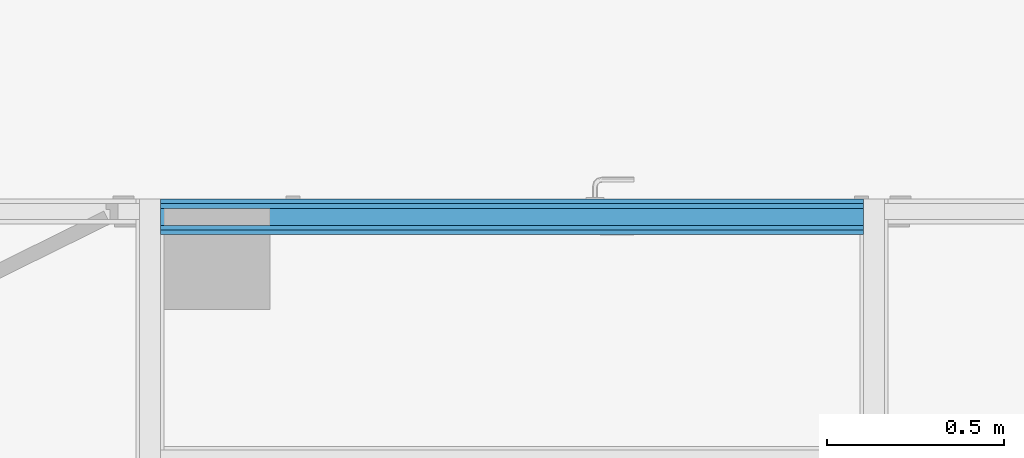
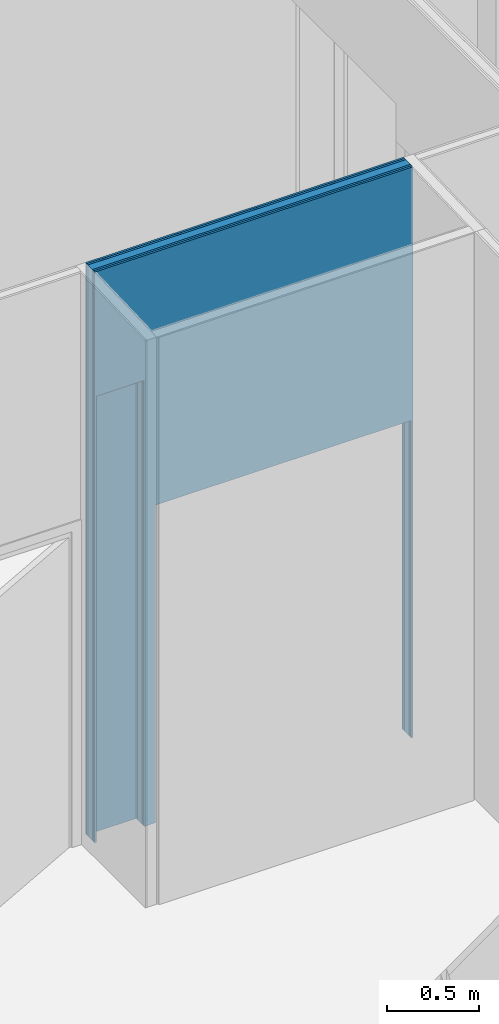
# One storey, part 31 of 34: 5 building element parts, 1 opening, 1 element without a shape of its own.
"""IFC2X3 building model written with IfcOpenShell, lengths in metres."""

import ifcopenshell
import ifcopenshell.guid

model = None  # the IFC model being written
_history = None  # IfcOwnerHistory: only IFC2X3 demands one
_inside = {}  # id of a spatial element -> (the spatial element, [elements in it])
_under = {}  # id of a project, library or spatial element -> (it, [spatial elements below it])
_declared = {}  # id of a project -> (the project, [libraries it declares])
_typed = {}  # id of a type object -> (the type object, [elements of that type])
_made_of = {}  # id of a material, layer set ... -> (it, [elements and type objects made of it])


def new_model(schema):
    """Start an empty IFC model of exactly this schema.

    Asked for "IFC4X3", IfcOpenShell would pick the latest addendum, in which some entities
    have other attributes; the version numbers below select the first issue.
    IFC2X3 requires an IfcOwnerHistory on every rooted entity: one is made here for all.
    """
    global model, _history
    if schema == "IFC4X3":
        model = ifcopenshell.file(schema_version=(4, 3, 0, 0))
    else:
        model = ifcopenshell.file(schema=schema)
    _inside.clear()
    _under.clear()
    _declared.clear()
    _typed.clear()
    _made_of.clear()
    _history = None
    if model.schema == "IFC2X3":
        org = make("IfcOrganization", Name="unknown")
        user = make(
            "IfcPersonAndOrganization",
            ThePerson=make("IfcPerson", FamilyName="unknown"),
            TheOrganization=org,
        )
        app = make(
            "IfcApplication",
            ApplicationDeveloper=org,
            Version="unknown",
            ApplicationFullName="unknown",
            ApplicationIdentifier="unknown",
        )
        _history = make(
            "IfcOwnerHistory",
            OwningUser=user,
            OwningApplication=app,
            ChangeAction="ADDED",
            CreationDate=0,
        )
    return model


def make(cls, **values):
    """One entity of the class cls with the attributes given. An attribute that is None is left unset."""
    return model.create_entity(
        cls, **{name: value for name, value in values.items() if value is not None}
    )


def entity(cls, *values):
    """Any entity or typed value of the class cls, its attributes in the order of the schema. None: left unset."""
    e = model.create_entity(cls)
    for i, value in enumerate(values):
        if value is not None:
            e[i] = value
    return e


def rooted(cls, **values):
    """An entity with a GlobalId (a new one), such as an element, a storey or a relation."""
    return make(cls, GlobalId=ifcopenshell.guid.new(), OwnerHistory=_history, **values)


def si_unit(unit_type, name, prefix=None):
    """IfcSIUnit, for example si_unit("LENGTHUNIT", "METRE", prefix="MILLI")."""
    return make("IfcSIUnit", UnitType=unit_type, Prefix=prefix, Name=name)


def converted_unit(unit_type, name, factor, base, dimensions=None, offset=None):
    """IfcConversionBasedUnit, such as the inch: factor (a typed value) times the base unit."""
    return make(
        "IfcConversionBasedUnit"
        if offset is None
        else "IfcConversionBasedUnitWithOffset",
        ConversionOffset=offset,
        Dimensions=None
        if dimensions is None
        else entity("IfcDimensionalExponents", *dimensions),
        UnitType=unit_type,
        Name=name,
        ConversionFactor=make(
            "IfcMeasureWithUnit", ValueComponent=factor, UnitComponent=base
        ),
    )


def derived_unit(unit_type, elements):
    """IfcDerivedUnit: a product of units, each with its exponent."""
    return make(
        "IfcDerivedUnit",
        Elements=[
            make("IfcDerivedUnitElement", Unit=unit, Exponent=power)
            for unit, power in elements
        ],
        UnitType=unit_type,
    )


def money_unit(currency):
    """IfcMonetaryUnit."""
    return make("IfcMonetaryUnit", Currency=currency)


def assignment(units):
    """IfcUnitAssignment: the units of a project."""
    return None if units is None else make("IfcUnitAssignment", Units=units)


def point(xyz):
    """IfcCartesianPoint."""
    return None if xyz is None else make("IfcCartesianPoint", Coordinates=xyz)


def direction(xyz):
    """IfcDirection."""
    return None if xyz is None else make("IfcDirection", DirectionRatios=xyz)


def frame(location, z_axis=None, x_axis=None):
    """IfcAxis2Placement3D, a coordinate frame: its origin and axes. An axis left out is left unset."""
    return make(
        "IfcAxis2Placement3D",
        Location=point(location),
        Axis=direction(z_axis),
        RefDirection=direction(x_axis),
    )


def frame_2d(location, x_axis=None):
    """IfcAxis2Placement2D, a coordinate frame in the plane: its origin and x axis."""
    return make(
        "IfcAxis2Placement2D", Location=point(location), RefDirection=direction(x_axis)
    )


def origin_with_axes():
    """The frame at (0, 0, 0) with the z axis (0, 0, 1) and the x axis (1, 0, 0) written out."""
    return frame((0.0, 0.0, 0.0), z_axis=(0.0, 0.0, 1.0), x_axis=(1.0, 0.0, 0.0))


def origin_2d_with_axis():
    """The frame at (0, 0) in the plane with the x axis (1, 0) written out."""
    return frame_2d((0.0, 0.0), x_axis=(1.0, 0.0))


def place(relative_to, where):
    """IfcLocalPlacement: puts the frame where relative to a parent placement (None: the world)."""
    return make(
        "IfcLocalPlacement", PlacementRelTo=relative_to, RelativePlacement=where
    )


def context(
    kind, dimensions, precision=None, world=None, true_north=None, identifier=None
):
    """IfcGeometricRepresentationContext, for example the 3D "Model" context."""
    return make(
        "IfcGeometricRepresentationContext",
        ContextIdentifier=identifier,
        ContextType=kind,
        CoordinateSpaceDimension=dimensions,
        Precision=precision,
        WorldCoordinateSystem=world,
        TrueNorth=true_north,
    )


def subcontext(parent, identifier, kind, view, scale=None):
    """IfcGeometricRepresentationSubContext, for example "Body" below "Model"."""
    return make(
        "IfcGeometricRepresentationSubContext",
        ContextIdentifier=identifier,
        ContextType=kind,
        ParentContext=parent,
        TargetScale=scale,
        TargetView=view,
    )


def project(units=None, contexts=None):
    """IfcProject with its units and contexts."""
    return rooted(
        "IfcProject",
        Name="project",
        RepresentationContexts=contexts,
        UnitsInContext=assignment(units),
    )


def spatial(cls, under=None, at=None, **own):
    """A site, building, storey or space (cls), placed at a placement, below another one or the project."""
    s = rooted(cls, ObjectPlacement=at, **own)
    if under is not None:
        _under.setdefault(under.id(), (under, []))[1].append(s)
    return s


def polyline(points):
    """IfcPolyline through the points."""
    return make("IfcPolyline", Points=[point(p) for p in points])


def profile(cls, at=None, kind="AREA", **sizes):
    """A parametric profile (cls). Its sizes go by their IFC names, for example OverallWidth=200.0."""
    return make(cls, ProfileType=kind, Position=at, **sizes)


def rectangle(**sizes):
    """IfcRectangleProfileDef."""
    return profile("IfcRectangleProfileDef", **sizes)


def outline(outer, holes=None, kind="AREA"):
    """IfcArbitraryClosedProfileDef: a profile drawn as a closed curve; with holes, ...WithVoids."""
    if holes is None:
        return make("IfcArbitraryClosedProfileDef", ProfileType=kind, OuterCurve=outer)
    return make(
        "IfcArbitraryProfileDefWithVoids",
        ProfileType=kind,
        OuterCurve=outer,
        InnerCurves=holes,
    )


def extrude(swept, where, along, depth):
    """IfcExtrudedAreaSolid: the profile swept, set in the frame where, extruded along a direction by depth."""
    return make(
        "IfcExtrudedAreaSolid",
        SweptArea=swept,
        Position=where,
        ExtrudedDirection=direction(along),
        Depth=depth,
    )


def boolean(op, a, b):
    """IfcBooleanResult of two solids."""
    return make("IfcBooleanResult", Operator=op, FirstOperand=a, SecondOperand=b)


def faces_of(points, faces, orient=None, outer=None):
    """IfcFace entities. A face is a list of loops; a loop is a list of indices into points, from 0.

    orient and outer hold one flag for each loop. By default every Orientation is true, the
    first loop of a face is its IfcFaceOuterBound and the others are IfcFaceBound.
    """
    made = []
    for i, loops in enumerate(faces):
        bounds = []
        for j, loop in enumerate(loops):
            is_outer = j == 0 if outer is None else outer[i][j]
            bounds.append(
                make(
                    "IfcFaceOuterBound" if is_outer else "IfcFaceBound",
                    Bound=make("IfcPolyLoop", Polygon=[points[k] for k in loop]),
                    Orientation=True if orient is None else orient[i][j],
                )
            )
        made.append(make("IfcFace", Bounds=bounds))
    return made


def faceted_brep(points, faces, orient=None, outer=None, voids=None):
    """IfcFacetedBrep: a solid bounded by flat faces; with voids (closed shells), ...WithVoids."""
    shared = [point(p) for p in points]
    hull = make("IfcClosedShell", CfsFaces=faces_of(shared, faces, orient, outer))
    if voids is None:
        return make("IfcFacetedBrep", Outer=hull)
    return make(
        "IfcFacetedBrepWithVoids",
        Outer=hull,
        Voids=[
            make(cls, CfsFaces=faces_of(shared, fs, o, b)) for cls, fs, o, b in voids
        ],
    )


def shape(context_of_items, identifier, shape_type, items):
    """IfcShapeRepresentation: the items that make up one representation, for example the "Body"."""
    return make(
        "IfcShapeRepresentation",
        ContextOfItems=context_of_items,
        RepresentationIdentifier=identifier,
        RepresentationType=shape_type,
        Items=items,
    )


def material(Name=None, Category=None):
    """IfcMaterial."""
    return make("IfcMaterial", Name=Name, Category=Category)


def made_of(thing, what):
    """Note that an element or type object is made of a material, layer set ...; save() writes the relation."""
    if what is not None:
        _made_of.setdefault(what.id(), (what, []))[1].append(thing)
    return thing


def type_object(cls, material=None, **own):
    """A type object (cls), such as IfcWallType, which elements share."""
    return made_of(rooted(cls, **own), material)


def element(
    cls,
    number,
    at=None,
    inside=None,
    cuts=None,
    type_object=None,
    material=None,
    context=None,
    identifier="Body",
    shape_type=None,
    held_by="IfcProductDefinitionShape",
    body=None,
    shapes=None,
    **own,
):
    """One element of the class cls, such as IfcWall. Its Tag is "e" and its number.

    at: its placement. inside: the storey or other place that contains it. cuts: it is an
    opening in that element (IfcRelVoidsElement). A single representation is given by context,
    identifier, shape_type and body (its items); several are given by shapes. held_by: the class
    of the entity that holds the representations. save() writes the other relations.
    """
    e = rooted(cls, Tag="e%d" % number, ObjectPlacement=at, **own)
    if body is not None:
        shapes = [shape(context, identifier, shape_type, body)]
    if shapes is not None:
        e.Representation = make(held_by, Representations=shapes)
    if inside is not None:
        _inside.setdefault(inside.id(), (inside, []))[1].append(e)
    if cuts is not None:
        rooted(
            "IfcRelVoidsElement", RelatingBuildingElement=cuts, RelatedOpeningElement=e
        )
    if type_object is not None:
        _typed.setdefault(type_object.id(), (type_object, []))[1].append(e)
    return made_of(e, material)


def aggregate(whole, parts):
    """IfcRelAggregates: a whole, such as a stair, and the parts it consists of."""
    return rooted("IfcRelAggregates", RelatingObject=whole, RelatedObjects=parts)


def save(model, path):
    """Write the relations noted so far, then the file.

    IfcRelAggregates (storeys below a building ...), IfcRelContainedInSpatialStructure (elements
    in a storey), IfcRelDefinesByType, IfcRelAssociatesMaterial and IfcRelDeclares: one each for
    every whole, place, type object, material and project.
    """
    for whole, parts in _under.values():
        aggregate(whole, parts)
    for where, things in _inside.values():
        rooted(
            "IfcRelContainedInSpatialStructure",
            RelatedElements=things,
            RelatingStructure=where,
        )
    for kind, things in _typed.values():
        rooted("IfcRelDefinesByType", RelatedObjects=things, RelatingType=kind)
    for what, things in _made_of.values():
        rooted("IfcRelAssociatesMaterial", RelatedObjects=things, RelatingMaterial=what)
    for by, libraries in _declared.values():
        rooted("IfcRelDeclares", RelatingContext=by, RelatedDefinitions=libraries)
    model.write(path)


model = new_model("IFC2X3")

# Units and contexts
model_context = context("Model", 3, precision=1e-05, world=origin_with_axes(), true_north=direction((0.0, 1.0)))
body_context = subcontext(model_context, "Body", "Model", "MODEL_VIEW")
ifc_project = project(units=[si_unit("LENGTHUNIT", "METRE"), si_unit("AREAUNIT", "SQUARE_METRE"), si_unit("VOLUMEUNIT", "CUBIC_METRE"), converted_unit("PLANEANGLEUNIT", "DEGREE", entity("IfcPlaneAngleMeasure", 0.0174532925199), si_unit("PLANEANGLEUNIT", "RADIAN"), dimensions=[0, 0, 0, 0, 0, 0, 0]), money_unit("CHF"), converted_unit("TIMEUNIT", "Year", entity("IfcTimeMeasure", 31556926.0), si_unit("TIMEUNIT", "SECOND"), dimensions=[0, 0, 1, 0, 0, 0, 0]), si_unit("MASSUNIT", "GRAM", prefix="KILO"), si_unit("THERMODYNAMICTEMPERATUREUNIT", "DEGREE_CELSIUS"), si_unit("LUMINOUSINTENSITYUNIT", "LUMEN"), si_unit("ENERGYUNIT", "JOULE", prefix="MEGA"), derived_unit("THERMALCONDUCTANCEUNIT", [(si_unit("POWERUNIT", "WATT"), 1), (si_unit("LENGTHUNIT", "METRE"), -1), (si_unit("THERMODYNAMICTEMPERATUREUNIT", "KELVIN"), -1)]), derived_unit("SPECIFICHEATCAPACITYUNIT", [(si_unit("ENERGYUNIT", "JOULE"), 1), (si_unit("MASSUNIT", "GRAM", prefix="KILO"), -1), (si_unit("THERMODYNAMICTEMPERATUREUNIT", "KELVIN"), -1)]), derived_unit("MASSDENSITYUNIT", [(si_unit("MASSUNIT", "GRAM", prefix="KILO"), 1), (si_unit("VOLUMEUNIT", "CUBIC_METRE"), -1)])], contexts=[model_context])

# Site, building, storey
site_placement = place(None, origin_with_axes())
site = spatial("IfcSite", under=ifc_project, at=site_placement, Name="Site", CompositionType="ELEMENT")
building_placement = place(site_placement, origin_with_axes())
building = spatial("IfcBuilding", under=site, at=building_placement, Name="Bâtiment", CompositionType="ELEMENT")
storey_placement = place(building_placement, origin_with_axes())
storey = spatial("IfcBuildingStorey", under=building, at=storey_placement, Name="Rez-de-chaussée", CompositionType="ELEMENT", Elevation=0.0)

# Wall, opening, building element parts
wall_type = type_object("IfcWallType", Name="Cloison 100/48 100", PredefinedType="NOTDEFINED")
wall_placement = place(storey_placement, frame((28.4394697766, 10.9801256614, 0.0), z_axis=(0.0, 0.0, 1.0), x_axis=(1.0, 0.0, 0.0)))
wall = element("IfcWall", 1, at=wall_placement, inside=storey, type_object=wall_type, Name="MUR_EXT-006")
opening_placement = place(wall_placement, frame((1.25, 0.0, 0.0), z_axis=(0.0, 0.0, 1.0), x_axis=(1.0, 0.0, 0.0)))
element("IfcOpeningElement", 2, at=opening_placement, cuts=wall, Name="PORTE-002", context=body_context, shape_type="SweptSolid", body=[
    extrude(rectangle(XDim=1.6, YDim=2.1, at=origin_2d_with_axis()), frame((0.0, -0.1, 1.05), z_axis=(0.0, 1.0, 0.0), x_axis=(1.0, 0.0, 0.0)), (0.0, 0.0, 1.0), 0.3),
    extrude(rectangle(XDim=1.65, YDim=2.125, at=origin_2d_with_axis()), frame((0.0, 0.0, 1.0625), z_axis=(0.0, -1.0, 0.0), x_axis=(1.0, 0.0, 0.0)), (0.0, 0.0, -1.0), 0.1),
])
ifc_material_1 = material(Name="Finition int - Plaque de plâtre")
building_element_part_1_placement = place(wall_placement, origin_with_axes())
solid_1 = boolean("DIFFERENCE", boolean("DIFFERENCE", boolean("DIFFERENCE", boolean("DIFFERENCE", boolean("DIFFERENCE", boolean("DIFFERENCE", boolean("DIFFERENCE", boolean("DIFFERENCE", extrude(outline(polyline([(0.0, -0.013), (2.13, -0.013), (2.13, 0.0), (0.0, 0.0), (0.0, -0.013)])), origin_with_axes(), (0.0, 0.0, 1.0), 4.0), faceted_brep([(0.07, 2.155839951e-10, 3.77780439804), (0.07, 8.64918092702e-09, 0.0), (0.0, 0.0, 0.0), (0.0, 0.0, 4.0), (2.13, 0.0, 4.0), (2.13, 0.0, 0.0), (2.06, 0.0, 0.0), (2.06, 0.0, 3.77780439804), (0.07, -0.013, 3.77734939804), (0.07, -0.013, 0.0), (0.0, -0.013, 0.0), (0.0, -0.013, 4.0), (2.13, -0.013, 4.0), (2.13, -0.013, 0.0), (2.06, -0.013, 0.0), (2.06, -0.013, 3.77734939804)], [[[0, 1, 2, 3, 4, 5, 6, 7]], [[1, 0, 8, 9]], [[1, 9, 10, 2]], [[3, 2, 10, 11]], [[3, 11, 12, 4]], [[12, 13, 5, 4]], [[14, 6, 5, 13]], [[7, 6, 14, 15]], [[0, 7, 15, 8]], [[15, 14, 13, 12, 11, 10, 9, 8]]])), faceted_brep([(0.08, -0.0130000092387, 0.0), (0.08, -0.0130000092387, 2.95), (0.38, -0.0130000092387, 2.95), (0.38, -0.0130000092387, 0.0), (0.08, -0.026, 0.0), (0.08, -0.026, 2.95), (0.38, -0.026, 2.95), (0.38, -0.026, 0.0)], [[[0, 1, 2, 3]], [[1, 0, 4, 5]], [[2, 1, 5, 6]], [[3, 2, 6, 7]], [[4, 0, 3, 7]], [[5, 4, 7, 6]]])), faceted_brep([(0.07, -0.013, 3.77734939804), (0.07, -0.013, 0.0), (0.0, -0.013, 0.0), (0.0, -0.013, 4.0), (2.13, -0.013, 4.0), (2.13, -0.013, 0.0), (2.06, -0.013, 0.0), (2.06, -0.013, 3.77734939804), (0.07, -0.026, 3.77689439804), (0.07, -0.026, 0.0), (0.0, -0.026, 0.0), (0.0, -0.026, 4.0), (2.13, -0.026, 4.0), (2.13, -0.026, 0.0), (2.06, -0.026, 0.0), (2.06, -0.026, 3.77689439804)], [[[0, 1, 2, 3, 4, 5, 6, 7]], [[1, 0, 8, 9]], [[1, 9, 10, 2]], [[3, 2, 10, 11]], [[3, 11, 12, 4]], [[12, 13, 5, 4]], [[14, 6, 5, 13]], [[7, 6, 14, 15]], [[0, 7, 15, 8]], [[15, 14, 13, 12, 11, 10, 9, 8]]])), faceted_brep([(0.08, -0.026, 0.0), (0.08, -0.026, 2.95), (0.38, -0.026, 2.95), (0.38, -0.026, 0.0), (0.08, -0.074, 0.0), (0.08, -0.074, 2.95), (0.38, -0.074, 2.95), (0.38, -0.074, 0.0)], [[[0, 1, 2, 3]], [[0, 4, 5, 1]], [[2, 1, 5, 6]], [[7, 3, 2, 6]], [[4, 0, 3, 7]], [[5, 4, 7, 6]]])), faceted_brep([(0.07, -0.026, 3.77689439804), (0.07, -0.026, 0.0), (0.0, -0.026, 0.0), (0.0, -0.026, 4.0), (2.13, -0.026, 4.0), (2.13, -0.026, 0.0), (2.06, -0.026, 0.0), (2.06, -0.026, 3.77689439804), (0.07, -0.074, 0.0), (0.07, -0.074, 3.77521439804), (0.0, -0.074, 0.0), (0.0, -0.074, 4.0), (2.13, -0.074, 4.0), (2.13, -0.074, 0.0), (2.06, -0.074, 0.0), (2.06, -0.074, 3.77521439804)], [[[0, 1, 2, 3, 4, 5, 6, 7]], [[8, 1, 0, 9]], [[1, 8, 10, 2]], [[3, 2, 10, 11]], [[3, 11, 12, 4]], [[12, 13, 5, 4]], [[14, 6, 5, 13]], [[6, 14, 15, 7]], [[0, 7, 15, 9]], [[15, 14, 13, 12, 11, 10, 8, 9]]])), faceted_brep([(0.08, -0.074, 0.0), (0.08, -0.074, 2.95), (0.38, -0.074, 2.95), (0.38, -0.074, 0.0), (0.08, -0.087, 0.0), (0.08, -0.087, 2.95), (0.38, -0.087, 2.95), (0.38, -0.087, 0.0)], [[[0, 1, 2, 3]], [[0, 4, 5, 1]], [[5, 6, 2, 1]], [[7, 3, 2, 6]], [[4, 0, 3, 7]], [[5, 4, 7, 6]]])), faceted_brep([(0.07, -0.074, 3.77521439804), (0.07, -0.074, 0.0), (0.0, -0.074, 0.0), (0.0, -0.074, 4.0), (2.13, -0.074, 4.0), (2.13, -0.074, 0.0), (2.06, -0.074, 0.0), (2.06, -0.074, 3.77521439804), (0.07, -0.087, 0.0), (0.07, -0.087, 3.77475939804), (0.0, -0.087, 0.0), (0.0, -0.087, 4.0), (2.13, -0.087, 4.0), (2.13, -0.087, 0.0), (2.06, -0.087, 0.0), (2.06, -0.087, 3.77475939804)], [[[0, 1, 2, 3, 4, 5, 6, 7]], [[8, 1, 0, 9]], [[1, 8, 10, 2]], [[3, 2, 10, 11]], [[3, 11, 12, 4]], [[12, 13, 5, 4]], [[14, 6, 5, 13]], [[6, 14, 15, 7]], [[0, 7, 15, 9]], [[15, 14, 13, 12, 11, 10, 8, 9]]])), faceted_brep([(0.08, -0.087, 0.0), (0.08, -0.087, 2.95), (0.38, -0.087, 2.95), (0.38, -0.087, 0.0), (0.08, -0.1, 0.0), (0.08, -0.1, 2.95), (0.38, -0.1, 2.95), (0.38, -0.1, 0.0)], [[[0, 1, 2, 3]], [[1, 0, 4, 5]], [[2, 1, 5, 6]], [[3, 2, 6, 7]], [[4, 0, 3, 7]], [[5, 4, 7, 6]]]))
building_element_part_1 = element("IfcBuildingElementPart", 3, at=building_element_part_1_placement, material=ifc_material_1, Name="Finition int - Plaque de plâtre", context=body_context, shape_type="CSG", body=[
    boolean("DIFFERENCE", solid_1, faceted_brep([(0.07, -0.087, 3.77475939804), (0.07, -0.087, 0.0), (0.0, -0.087, 0.0), (0.0, -0.087, 4.0), (2.13, -0.087, 4.0), (2.13, -0.087, 0.0), (2.06, -0.087, 0.0), (2.06, -0.087, 3.77475939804), (0.07, -0.1, 3.77430439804), (0.07, -0.1, 0.0), (0.0, -0.1, 0.0), (0.0, -0.1, 4.0), (2.13, -0.1, 4.0), (2.13, -0.1, 0.0), (2.06, -0.1, 0.0), (2.06, -0.1, 3.77430439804)], [[[0, 1, 2, 3, 4, 5, 6, 7]], [[1, 0, 8, 9]], [[1, 9, 10, 2]], [[3, 2, 10, 11]], [[3, 11, 12, 4]], [[12, 13, 5, 4]], [[14, 6, 5, 13]], [[7, 6, 14, 15]], [[0, 7, 15, 8]], [[15, 14, 13, 12, 11, 10, 9, 8]]])),
])
building_element_part_2_placement = place(wall_placement, origin_with_axes())
solid_2 = boolean("DIFFERENCE", boolean("DIFFERENCE", boolean("DIFFERENCE", boolean("DIFFERENCE", boolean("DIFFERENCE", boolean("DIFFERENCE", boolean("DIFFERENCE", boolean("DIFFERENCE", extrude(outline(polyline([(0.0, -0.026), (2.13, -0.026), (2.13, -0.013), (0.0, -0.013), (0.0, -0.026)])), origin_with_axes(), (0.0, 0.0, 1.0), 4.0), faceted_brep([(0.07, 2.155839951e-10, 3.77780439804), (0.07, 8.64918092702e-09, 0.0), (0.0, 0.0, 0.0), (0.0, 0.0, 4.0), (2.13, 0.0, 4.0), (2.13, 0.0, 0.0), (2.06, 0.0, 0.0), (2.06, 0.0, 3.77780439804), (0.07, -0.013, 3.77734939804), (0.07, -0.013, 0.0), (0.0, -0.013, 0.0), (0.0, -0.013, 4.0), (2.13, -0.013, 4.0), (2.13, -0.013, 0.0), (2.06, -0.013, 0.0), (2.06, -0.013, 3.77734939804)], [[[0, 1, 2, 3, 4, 5, 6, 7]], [[1, 0, 8, 9]], [[1, 9, 10, 2]], [[3, 2, 10, 11]], [[3, 11, 12, 4]], [[12, 13, 5, 4]], [[14, 6, 5, 13]], [[7, 6, 14, 15]], [[0, 7, 15, 8]], [[15, 14, 13, 12, 11, 10, 9, 8]]])), faceted_brep([(0.08, -0.0130000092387, 0.0), (0.08, -0.0130000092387, 2.95), (0.38, -0.0130000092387, 2.95), (0.38, -0.0130000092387, 0.0), (0.08, -0.026, 0.0), (0.08, -0.026, 2.95), (0.38, -0.026, 2.95), (0.38, -0.026, 0.0)], [[[0, 1, 2, 3]], [[1, 0, 4, 5]], [[2, 1, 5, 6]], [[3, 2, 6, 7]], [[4, 0, 3, 7]], [[5, 4, 7, 6]]])), faceted_brep([(0.07, -0.013, 3.77734939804), (0.07, -0.013, 0.0), (0.0, -0.013, 0.0), (0.0, -0.013, 4.0), (2.13, -0.013, 4.0), (2.13, -0.013, 0.0), (2.06, -0.013, 0.0), (2.06, -0.013, 3.77734939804), (0.07, -0.026, 3.77689439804), (0.07, -0.026, 0.0), (0.0, -0.026, 0.0), (0.0, -0.026, 4.0), (2.13, -0.026, 4.0), (2.13, -0.026, 0.0), (2.06, -0.026, 0.0), (2.06, -0.026, 3.77689439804)], [[[0, 1, 2, 3, 4, 5, 6, 7]], [[1, 0, 8, 9]], [[1, 9, 10, 2]], [[3, 2, 10, 11]], [[3, 11, 12, 4]], [[12, 13, 5, 4]], [[14, 6, 5, 13]], [[7, 6, 14, 15]], [[0, 7, 15, 8]], [[15, 14, 13, 12, 11, 10, 9, 8]]])), faceted_brep([(0.08, -0.026, 0.0), (0.08, -0.026, 2.95), (0.38, -0.026, 2.95), (0.38, -0.026, 0.0), (0.08, -0.074, 0.0), (0.08, -0.074, 2.95), (0.38, -0.074, 2.95), (0.38, -0.074, 0.0)], [[[0, 1, 2, 3]], [[0, 4, 5, 1]], [[2, 1, 5, 6]], [[7, 3, 2, 6]], [[4, 0, 3, 7]], [[5, 4, 7, 6]]])), faceted_brep([(0.07, -0.026, 3.77689439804), (0.07, -0.026, 0.0), (0.0, -0.026, 0.0), (0.0, -0.026, 4.0), (2.13, -0.026, 4.0), (2.13, -0.026, 0.0), (2.06, -0.026, 0.0), (2.06, -0.026, 3.77689439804), (0.07, -0.074, 0.0), (0.07, -0.074, 3.77521439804), (0.0, -0.074, 0.0), (0.0, -0.074, 4.0), (2.13, -0.074, 4.0), (2.13, -0.074, 0.0), (2.06, -0.074, 0.0), (2.06, -0.074, 3.77521439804)], [[[0, 1, 2, 3, 4, 5, 6, 7]], [[8, 1, 0, 9]], [[1, 8, 10, 2]], [[3, 2, 10, 11]], [[3, 11, 12, 4]], [[12, 13, 5, 4]], [[14, 6, 5, 13]], [[6, 14, 15, 7]], [[0, 7, 15, 9]], [[15, 14, 13, 12, 11, 10, 8, 9]]])), faceted_brep([(0.08, -0.074, 0.0), (0.08, -0.074, 2.95), (0.38, -0.074, 2.95), (0.38, -0.074, 0.0), (0.08, -0.087, 0.0), (0.08, -0.087, 2.95), (0.38, -0.087, 2.95), (0.38, -0.087, 0.0)], [[[0, 1, 2, 3]], [[0, 4, 5, 1]], [[5, 6, 2, 1]], [[7, 3, 2, 6]], [[4, 0, 3, 7]], [[5, 4, 7, 6]]])), faceted_brep([(0.07, -0.074, 3.77521439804), (0.07, -0.074, 0.0), (0.0, -0.074, 0.0), (0.0, -0.074, 4.0), (2.13, -0.074, 4.0), (2.13, -0.074, 0.0), (2.06, -0.074, 0.0), (2.06, -0.074, 3.77521439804), (0.07, -0.087, 0.0), (0.07, -0.087, 3.77475939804), (0.0, -0.087, 0.0), (0.0, -0.087, 4.0), (2.13, -0.087, 4.0), (2.13, -0.087, 0.0), (2.06, -0.087, 0.0), (2.06, -0.087, 3.77475939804)], [[[0, 1, 2, 3, 4, 5, 6, 7]], [[8, 1, 0, 9]], [[1, 8, 10, 2]], [[3, 2, 10, 11]], [[3, 11, 12, 4]], [[12, 13, 5, 4]], [[14, 6, 5, 13]], [[6, 14, 15, 7]], [[0, 7, 15, 9]], [[15, 14, 13, 12, 11, 10, 8, 9]]])), faceted_brep([(0.08, -0.087, 0.0), (0.08, -0.087, 2.95), (0.38, -0.087, 2.95), (0.38, -0.087, 0.0), (0.08, -0.1, 0.0), (0.08, -0.1, 2.95), (0.38, -0.1, 2.95), (0.38, -0.1, 0.0)], [[[0, 1, 2, 3]], [[1, 0, 4, 5]], [[2, 1, 5, 6]], [[3, 2, 6, 7]], [[4, 0, 3, 7]], [[5, 4, 7, 6]]]))
building_element_part_2 = element("IfcBuildingElementPart", 4, at=building_element_part_2_placement, material=ifc_material_1, Name="Finition int - Plaque de plâtre", context=body_context, shape_type="CSG", body=[
    boolean("DIFFERENCE", solid_2, faceted_brep([(0.07, -0.087, 3.77475939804), (0.07, -0.087, 0.0), (0.0, -0.087, 0.0), (0.0, -0.087, 4.0), (2.13, -0.087, 4.0), (2.13, -0.087, 0.0), (2.06, -0.087, 0.0), (2.06, -0.087, 3.77475939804), (0.07, -0.1, 3.77430439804), (0.07, -0.1, 0.0), (0.0, -0.1, 0.0), (0.0, -0.1, 4.0), (2.13, -0.1, 4.0), (2.13, -0.1, 0.0), (2.06, -0.1, 0.0), (2.06, -0.1, 3.77430439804)], [[[0, 1, 2, 3, 4, 5, 6, 7]], [[1, 0, 8, 9]], [[1, 9, 10, 2]], [[3, 2, 10, 11]], [[3, 11, 12, 4]], [[12, 13, 5, 4]], [[14, 6, 5, 13]], [[7, 6, 14, 15]], [[0, 7, 15, 8]], [[15, 14, 13, 12, 11, 10, 9, 8]]])),
])
ifc_material_2 = material(Name="Isolation - Laine de verre")
building_element_part_3_placement = place(wall_placement, origin_with_axes())
solid_3 = boolean("DIFFERENCE", boolean("DIFFERENCE", boolean("DIFFERENCE", boolean("DIFFERENCE", boolean("DIFFERENCE", boolean("DIFFERENCE", boolean("DIFFERENCE", boolean("DIFFERENCE", extrude(outline(polyline([(0.0, -0.074), (2.13, -0.074), (2.13, -0.026), (0.0, -0.026), (0.0, -0.074)])), origin_with_axes(), (0.0, 0.0, 1.0), 4.0), faceted_brep([(0.07, 2.155839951e-10, 3.77780439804), (0.07, 8.64918092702e-09, 0.0), (0.0, 0.0, 0.0), (0.0, 0.0, 4.0), (2.13, 0.0, 4.0), (2.13, 0.0, 0.0), (2.06, 0.0, 0.0), (2.06, 0.0, 3.77780439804), (0.07, -0.013, 3.77734939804), (0.07, -0.013, 0.0), (0.0, -0.013, 0.0), (0.0, -0.013, 4.0), (2.13, -0.013, 4.0), (2.13, -0.013, 0.0), (2.06, -0.013, 0.0), (2.06, -0.013, 3.77734939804)], [[[0, 1, 2, 3, 4, 5, 6, 7]], [[1, 0, 8, 9]], [[1, 9, 10, 2]], [[3, 2, 10, 11]], [[3, 11, 12, 4]], [[12, 13, 5, 4]], [[14, 6, 5, 13]], [[7, 6, 14, 15]], [[0, 7, 15, 8]], [[15, 14, 13, 12, 11, 10, 9, 8]]])), faceted_brep([(0.08, -0.0130000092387, 0.0), (0.08, -0.0130000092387, 2.95), (0.38, -0.0130000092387, 2.95), (0.38, -0.0130000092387, 0.0), (0.08, -0.026, 0.0), (0.08, -0.026, 2.95), (0.38, -0.026, 2.95), (0.38, -0.026, 0.0)], [[[0, 1, 2, 3]], [[1, 0, 4, 5]], [[2, 1, 5, 6]], [[3, 2, 6, 7]], [[4, 0, 3, 7]], [[5, 4, 7, 6]]])), faceted_brep([(0.07, -0.013, 3.77734939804), (0.07, -0.013, 0.0), (0.0, -0.013, 0.0), (0.0, -0.013, 4.0), (2.13, -0.013, 4.0), (2.13, -0.013, 0.0), (2.06, -0.013, 0.0), (2.06, -0.013, 3.77734939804), (0.07, -0.026, 3.77689439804), (0.07, -0.026, 0.0), (0.0, -0.026, 0.0), (0.0, -0.026, 4.0), (2.13, -0.026, 4.0), (2.13, -0.026, 0.0), (2.06, -0.026, 0.0), (2.06, -0.026, 3.77689439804)], [[[0, 1, 2, 3, 4, 5, 6, 7]], [[1, 0, 8, 9]], [[1, 9, 10, 2]], [[3, 2, 10, 11]], [[3, 11, 12, 4]], [[12, 13, 5, 4]], [[14, 6, 5, 13]], [[7, 6, 14, 15]], [[0, 7, 15, 8]], [[15, 14, 13, 12, 11, 10, 9, 8]]])), faceted_brep([(0.08, -0.026, 0.0), (0.08, -0.026, 2.95), (0.38, -0.026, 2.95), (0.38, -0.026, 0.0), (0.08, -0.074, 0.0), (0.08, -0.074, 2.95), (0.38, -0.074, 2.95), (0.38, -0.074, 0.0)], [[[0, 1, 2, 3]], [[0, 4, 5, 1]], [[2, 1, 5, 6]], [[7, 3, 2, 6]], [[4, 0, 3, 7]], [[5, 4, 7, 6]]])), faceted_brep([(0.07, -0.026, 3.77689439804), (0.07, -0.026, 0.0), (0.0, -0.026, 0.0), (0.0, -0.026, 4.0), (2.13, -0.026, 4.0), (2.13, -0.026, 0.0), (2.06, -0.026, 0.0), (2.06, -0.026, 3.77689439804), (0.07, -0.074, 0.0), (0.07, -0.074, 3.77521439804), (0.0, -0.074, 0.0), (0.0, -0.074, 4.0), (2.13, -0.074, 4.0), (2.13, -0.074, 0.0), (2.06, -0.074, 0.0), (2.06, -0.074, 3.77521439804)], [[[0, 1, 2, 3, 4, 5, 6, 7]], [[8, 1, 0, 9]], [[1, 8, 10, 2]], [[3, 2, 10, 11]], [[3, 11, 12, 4]], [[12, 13, 5, 4]], [[14, 6, 5, 13]], [[6, 14, 15, 7]], [[0, 7, 15, 9]], [[15, 14, 13, 12, 11, 10, 8, 9]]])), faceted_brep([(0.08, -0.074, 0.0), (0.08, -0.074, 2.95), (0.38, -0.074, 2.95), (0.38, -0.074, 0.0), (0.08, -0.087, 0.0), (0.08, -0.087, 2.95), (0.38, -0.087, 2.95), (0.38, -0.087, 0.0)], [[[0, 1, 2, 3]], [[0, 4, 5, 1]], [[5, 6, 2, 1]], [[7, 3, 2, 6]], [[4, 0, 3, 7]], [[5, 4, 7, 6]]])), faceted_brep([(0.07, -0.074, 3.77521439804), (0.07, -0.074, 0.0), (0.0, -0.074, 0.0), (0.0, -0.074, 4.0), (2.13, -0.074, 4.0), (2.13, -0.074, 0.0), (2.06, -0.074, 0.0), (2.06, -0.074, 3.77521439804), (0.07, -0.087, 0.0), (0.07, -0.087, 3.77475939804), (0.0, -0.087, 0.0), (0.0, -0.087, 4.0), (2.13, -0.087, 4.0), (2.13, -0.087, 0.0), (2.06, -0.087, 0.0), (2.06, -0.087, 3.77475939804)], [[[0, 1, 2, 3, 4, 5, 6, 7]], [[8, 1, 0, 9]], [[1, 8, 10, 2]], [[3, 2, 10, 11]], [[3, 11, 12, 4]], [[12, 13, 5, 4]], [[14, 6, 5, 13]], [[6, 14, 15, 7]], [[0, 7, 15, 9]], [[15, 14, 13, 12, 11, 10, 8, 9]]])), faceted_brep([(0.08, -0.087, 0.0), (0.08, -0.087, 2.95), (0.38, -0.087, 2.95), (0.38, -0.087, 0.0), (0.08, -0.1, 0.0), (0.08, -0.1, 2.95), (0.38, -0.1, 2.95), (0.38, -0.1, 0.0)], [[[0, 1, 2, 3]], [[1, 0, 4, 5]], [[2, 1, 5, 6]], [[3, 2, 6, 7]], [[4, 0, 3, 7]], [[5, 4, 7, 6]]]))
building_element_part_3 = element("IfcBuildingElementPart", 5, at=building_element_part_3_placement, material=ifc_material_2, Name="Isolation - Laine de verre", context=body_context, shape_type="CSG", body=[
    boolean("DIFFERENCE", solid_3, faceted_brep([(0.07, -0.087, 3.77475939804), (0.07, -0.087, 0.0), (0.0, -0.087, 0.0), (0.0, -0.087, 4.0), (2.13, -0.087, 4.0), (2.13, -0.087, 0.0), (2.06, -0.087, 0.0), (2.06, -0.087, 3.77475939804), (0.07, -0.1, 3.77430439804), (0.07, -0.1, 0.0), (0.0, -0.1, 0.0), (0.0, -0.1, 4.0), (2.13, -0.1, 4.0), (2.13, -0.1, 0.0), (2.06, -0.1, 0.0), (2.06, -0.1, 3.77430439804)], [[[0, 1, 2, 3, 4, 5, 6, 7]], [[1, 0, 8, 9]], [[1, 9, 10, 2]], [[3, 2, 10, 11]], [[3, 11, 12, 4]], [[12, 13, 5, 4]], [[14, 6, 5, 13]], [[7, 6, 14, 15]], [[0, 7, 15, 8]], [[15, 14, 13, 12, 11, 10, 9, 8]]])),
])
building_element_part_4_placement = place(wall_placement, origin_with_axes())
solid_4 = boolean("DIFFERENCE", boolean("DIFFERENCE", boolean("DIFFERENCE", boolean("DIFFERENCE", boolean("DIFFERENCE", boolean("DIFFERENCE", boolean("DIFFERENCE", boolean("DIFFERENCE", extrude(outline(polyline([(0.0, -0.087), (2.13, -0.087), (2.13, -0.074), (0.0, -0.074), (0.0, -0.087)])), origin_with_axes(), (0.0, 0.0, 1.0), 4.0), faceted_brep([(0.07, 2.155839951e-10, 3.77780439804), (0.07, 8.64918092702e-09, 0.0), (0.0, 0.0, 0.0), (0.0, 0.0, 4.0), (2.13, 0.0, 4.0), (2.13, 0.0, 0.0), (2.06, 0.0, 0.0), (2.06, 0.0, 3.77780439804), (0.07, -0.013, 3.77734939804), (0.07, -0.013, 0.0), (0.0, -0.013, 0.0), (0.0, -0.013, 4.0), (2.13, -0.013, 4.0), (2.13, -0.013, 0.0), (2.06, -0.013, 0.0), (2.06, -0.013, 3.77734939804)], [[[0, 1, 2, 3, 4, 5, 6, 7]], [[1, 0, 8, 9]], [[1, 9, 10, 2]], [[3, 2, 10, 11]], [[3, 11, 12, 4]], [[12, 13, 5, 4]], [[14, 6, 5, 13]], [[7, 6, 14, 15]], [[0, 7, 15, 8]], [[15, 14, 13, 12, 11, 10, 9, 8]]])), faceted_brep([(0.08, -0.0130000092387, 0.0), (0.08, -0.0130000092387, 2.95), (0.38, -0.0130000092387, 2.95), (0.38, -0.0130000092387, 0.0), (0.08, -0.026, 0.0), (0.08, -0.026, 2.95), (0.38, -0.026, 2.95), (0.38, -0.026, 0.0)], [[[0, 1, 2, 3]], [[1, 0, 4, 5]], [[2, 1, 5, 6]], [[3, 2, 6, 7]], [[4, 0, 3, 7]], [[5, 4, 7, 6]]])), faceted_brep([(0.07, -0.013, 3.77734939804), (0.07, -0.013, 0.0), (0.0, -0.013, 0.0), (0.0, -0.013, 4.0), (2.13, -0.013, 4.0), (2.13, -0.013, 0.0), (2.06, -0.013, 0.0), (2.06, -0.013, 3.77734939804), (0.07, -0.026, 3.77689439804), (0.07, -0.026, 0.0), (0.0, -0.026, 0.0), (0.0, -0.026, 4.0), (2.13, -0.026, 4.0), (2.13, -0.026, 0.0), (2.06, -0.026, 0.0), (2.06, -0.026, 3.77689439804)], [[[0, 1, 2, 3, 4, 5, 6, 7]], [[1, 0, 8, 9]], [[1, 9, 10, 2]], [[3, 2, 10, 11]], [[3, 11, 12, 4]], [[12, 13, 5, 4]], [[14, 6, 5, 13]], [[7, 6, 14, 15]], [[0, 7, 15, 8]], [[15, 14, 13, 12, 11, 10, 9, 8]]])), faceted_brep([(0.08, -0.026, 0.0), (0.08, -0.026, 2.95), (0.38, -0.026, 2.95), (0.38, -0.026, 0.0), (0.08, -0.074, 0.0), (0.08, -0.074, 2.95), (0.38, -0.074, 2.95), (0.38, -0.074, 0.0)], [[[0, 1, 2, 3]], [[0, 4, 5, 1]], [[2, 1, 5, 6]], [[7, 3, 2, 6]], [[4, 0, 3, 7]], [[5, 4, 7, 6]]])), faceted_brep([(0.07, -0.026, 3.77689439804), (0.07, -0.026, 0.0), (0.0, -0.026, 0.0), (0.0, -0.026, 4.0), (2.13, -0.026, 4.0), (2.13, -0.026, 0.0), (2.06, -0.026, 0.0), (2.06, -0.026, 3.77689439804), (0.07, -0.074, 0.0), (0.07, -0.074, 3.77521439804), (0.0, -0.074, 0.0), (0.0, -0.074, 4.0), (2.13, -0.074, 4.0), (2.13, -0.074, 0.0), (2.06, -0.074, 0.0), (2.06, -0.074, 3.77521439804)], [[[0, 1, 2, 3, 4, 5, 6, 7]], [[8, 1, 0, 9]], [[1, 8, 10, 2]], [[3, 2, 10, 11]], [[3, 11, 12, 4]], [[12, 13, 5, 4]], [[14, 6, 5, 13]], [[6, 14, 15, 7]], [[0, 7, 15, 9]], [[15, 14, 13, 12, 11, 10, 8, 9]]])), faceted_brep([(0.08, -0.074, 0.0), (0.08, -0.074, 2.95), (0.38, -0.074, 2.95), (0.38, -0.074, 0.0), (0.08, -0.087, 0.0), (0.08, -0.087, 2.95), (0.38, -0.087, 2.95), (0.38, -0.087, 0.0)], [[[0, 1, 2, 3]], [[0, 4, 5, 1]], [[5, 6, 2, 1]], [[7, 3, 2, 6]], [[4, 0, 3, 7]], [[5, 4, 7, 6]]])), faceted_brep([(0.07, -0.074, 3.77521439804), (0.07, -0.074, 0.0), (0.0, -0.074, 0.0), (0.0, -0.074, 4.0), (2.13, -0.074, 4.0), (2.13, -0.074, 0.0), (2.06, -0.074, 0.0), (2.06, -0.074, 3.77521439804), (0.07, -0.087, 0.0), (0.07, -0.087, 3.77475939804), (0.0, -0.087, 0.0), (0.0, -0.087, 4.0), (2.13, -0.087, 4.0), (2.13, -0.087, 0.0), (2.06, -0.087, 0.0), (2.06, -0.087, 3.77475939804)], [[[0, 1, 2, 3, 4, 5, 6, 7]], [[8, 1, 0, 9]], [[1, 8, 10, 2]], [[3, 2, 10, 11]], [[3, 11, 12, 4]], [[12, 13, 5, 4]], [[14, 6, 5, 13]], [[6, 14, 15, 7]], [[0, 7, 15, 9]], [[15, 14, 13, 12, 11, 10, 8, 9]]])), faceted_brep([(0.08, -0.087, 0.0), (0.08, -0.087, 2.95), (0.38, -0.087, 2.95), (0.38, -0.087, 0.0), (0.08, -0.1, 0.0), (0.08, -0.1, 2.95), (0.38, -0.1, 2.95), (0.38, -0.1, 0.0)], [[[0, 1, 2, 3]], [[1, 0, 4, 5]], [[2, 1, 5, 6]], [[3, 2, 6, 7]], [[4, 0, 3, 7]], [[5, 4, 7, 6]]]))
building_element_part_4 = element("IfcBuildingElementPart", 6, at=building_element_part_4_placement, material=ifc_material_1, Name="Finition int - Plaque de plâtre", context=body_context, shape_type="CSG", body=[
    boolean("DIFFERENCE", solid_4, faceted_brep([(0.07, -0.087, 3.77475939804), (0.07, -0.087, 0.0), (0.0, -0.087, 0.0), (0.0, -0.087, 4.0), (2.13, -0.087, 4.0), (2.13, -0.087, 0.0), (2.06, -0.087, 0.0), (2.06, -0.087, 3.77475939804), (0.07, -0.1, 3.77430439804), (0.07, -0.1, 0.0), (0.0, -0.1, 0.0), (0.0, -0.1, 4.0), (2.13, -0.1, 4.0), (2.13, -0.1, 0.0), (2.06, -0.1, 0.0), (2.06, -0.1, 3.77430439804)], [[[0, 1, 2, 3, 4, 5, 6, 7]], [[1, 0, 8, 9]], [[1, 9, 10, 2]], [[3, 2, 10, 11]], [[3, 11, 12, 4]], [[12, 13, 5, 4]], [[14, 6, 5, 13]], [[7, 6, 14, 15]], [[0, 7, 15, 8]], [[15, 14, 13, 12, 11, 10, 9, 8]]])),
])
building_element_part_5_placement = place(wall_placement, origin_with_axes())
solid_5 = boolean("DIFFERENCE", boolean("DIFFERENCE", boolean("DIFFERENCE", boolean("DIFFERENCE", boolean("DIFFERENCE", boolean("DIFFERENCE", boolean("DIFFERENCE", boolean("DIFFERENCE", extrude(outline(polyline([(0.0, -0.1), (2.13, -0.1), (2.13, -0.087), (0.0, -0.087), (0.0, -0.1)])), origin_with_axes(), (0.0, 0.0, 1.0), 4.0), faceted_brep([(0.07, 2.155839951e-10, 3.77780439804), (0.07, 8.64918092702e-09, 0.0), (0.0, 0.0, 0.0), (0.0, 0.0, 4.0), (2.13, 0.0, 4.0), (2.13, 0.0, 0.0), (2.06, 0.0, 0.0), (2.06, 0.0, 3.77780439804), (0.07, -0.013, 3.77734939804), (0.07, -0.013, 0.0), (0.0, -0.013, 0.0), (0.0, -0.013, 4.0), (2.13, -0.013, 4.0), (2.13, -0.013, 0.0), (2.06, -0.013, 0.0), (2.06, -0.013, 3.77734939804)], [[[0, 1, 2, 3, 4, 5, 6, 7]], [[1, 0, 8, 9]], [[1, 9, 10, 2]], [[3, 2, 10, 11]], [[3, 11, 12, 4]], [[12, 13, 5, 4]], [[14, 6, 5, 13]], [[7, 6, 14, 15]], [[0, 7, 15, 8]], [[15, 14, 13, 12, 11, 10, 9, 8]]])), faceted_brep([(0.08, -0.0130000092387, 0.0), (0.08, -0.0130000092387, 2.95), (0.38, -0.0130000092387, 2.95), (0.38, -0.0130000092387, 0.0), (0.08, -0.026, 0.0), (0.08, -0.026, 2.95), (0.38, -0.026, 2.95), (0.38, -0.026, 0.0)], [[[0, 1, 2, 3]], [[1, 0, 4, 5]], [[2, 1, 5, 6]], [[3, 2, 6, 7]], [[4, 0, 3, 7]], [[5, 4, 7, 6]]])), faceted_brep([(0.07, -0.013, 3.77734939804), (0.07, -0.013, 0.0), (0.0, -0.013, 0.0), (0.0, -0.013, 4.0), (2.13, -0.013, 4.0), (2.13, -0.013, 0.0), (2.06, -0.013, 0.0), (2.06, -0.013, 3.77734939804), (0.07, -0.026, 3.77689439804), (0.07, -0.026, 0.0), (0.0, -0.026, 0.0), (0.0, -0.026, 4.0), (2.13, -0.026, 4.0), (2.13, -0.026, 0.0), (2.06, -0.026, 0.0), (2.06, -0.026, 3.77689439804)], [[[0, 1, 2, 3, 4, 5, 6, 7]], [[1, 0, 8, 9]], [[1, 9, 10, 2]], [[3, 2, 10, 11]], [[3, 11, 12, 4]], [[12, 13, 5, 4]], [[14, 6, 5, 13]], [[7, 6, 14, 15]], [[0, 7, 15, 8]], [[15, 14, 13, 12, 11, 10, 9, 8]]])), faceted_brep([(0.08, -0.026, 0.0), (0.08, -0.026, 2.95), (0.38, -0.026, 2.95), (0.38, -0.026, 0.0), (0.08, -0.074, 0.0), (0.08, -0.074, 2.95), (0.38, -0.074, 2.95), (0.38, -0.074, 0.0)], [[[0, 1, 2, 3]], [[0, 4, 5, 1]], [[2, 1, 5, 6]], [[7, 3, 2, 6]], [[4, 0, 3, 7]], [[5, 4, 7, 6]]])), faceted_brep([(0.07, -0.026, 3.77689439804), (0.07, -0.026, 0.0), (0.0, -0.026, 0.0), (0.0, -0.026, 4.0), (2.13, -0.026, 4.0), (2.13, -0.026, 0.0), (2.06, -0.026, 0.0), (2.06, -0.026, 3.77689439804), (0.07, -0.074, 0.0), (0.07, -0.074, 3.77521439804), (0.0, -0.074, 0.0), (0.0, -0.074, 4.0), (2.13, -0.074, 4.0), (2.13, -0.074, 0.0), (2.06, -0.074, 0.0), (2.06, -0.074, 3.77521439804)], [[[0, 1, 2, 3, 4, 5, 6, 7]], [[8, 1, 0, 9]], [[1, 8, 10, 2]], [[3, 2, 10, 11]], [[3, 11, 12, 4]], [[12, 13, 5, 4]], [[14, 6, 5, 13]], [[6, 14, 15, 7]], [[0, 7, 15, 9]], [[15, 14, 13, 12, 11, 10, 8, 9]]])), faceted_brep([(0.08, -0.074, 0.0), (0.08, -0.074, 2.95), (0.38, -0.074, 2.95), (0.38, -0.074, 0.0), (0.08, -0.087, 0.0), (0.08, -0.087, 2.95), (0.38, -0.087, 2.95), (0.38, -0.087, 0.0)], [[[0, 1, 2, 3]], [[0, 4, 5, 1]], [[5, 6, 2, 1]], [[7, 3, 2, 6]], [[4, 0, 3, 7]], [[5, 4, 7, 6]]])), faceted_brep([(0.07, -0.074, 3.77521439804), (0.07, -0.074, 0.0), (0.0, -0.074, 0.0), (0.0, -0.074, 4.0), (2.13, -0.074, 4.0), (2.13, -0.074, 0.0), (2.06, -0.074, 0.0), (2.06, -0.074, 3.77521439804), (0.07, -0.087, 0.0), (0.07, -0.087, 3.77475939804), (0.0, -0.087, 0.0), (0.0, -0.087, 4.0), (2.13, -0.087, 4.0), (2.13, -0.087, 0.0), (2.06, -0.087, 0.0), (2.06, -0.087, 3.77475939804)], [[[0, 1, 2, 3, 4, 5, 6, 7]], [[8, 1, 0, 9]], [[1, 8, 10, 2]], [[3, 2, 10, 11]], [[3, 11, 12, 4]], [[12, 13, 5, 4]], [[14, 6, 5, 13]], [[6, 14, 15, 7]], [[0, 7, 15, 9]], [[15, 14, 13, 12, 11, 10, 8, 9]]])), faceted_brep([(0.08, -0.087, 0.0), (0.08, -0.087, 2.95), (0.38, -0.087, 2.95), (0.38, -0.087, 0.0), (0.08, -0.1, 0.0), (0.08, -0.1, 2.95), (0.38, -0.1, 2.95), (0.38, -0.1, 0.0)], [[[0, 1, 2, 3]], [[1, 0, 4, 5]], [[2, 1, 5, 6]], [[3, 2, 6, 7]], [[4, 0, 3, 7]], [[5, 4, 7, 6]]]))
building_element_part_5 = element("IfcBuildingElementPart", 7, at=building_element_part_5_placement, material=ifc_material_1, Name="Finition int - Plaque de plâtre", context=body_context, shape_type="CSG", body=[
    boolean("DIFFERENCE", solid_5, faceted_brep([(0.07, -0.087, 3.77475939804), (0.07, -0.087, 0.0), (0.0, -0.087, 0.0), (0.0, -0.087, 4.0), (2.13, -0.087, 4.0), (2.13, -0.087, 0.0), (2.06, -0.087, 0.0), (2.06, -0.087, 3.77475939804), (0.07, -0.1, 3.77430439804), (0.07, -0.1, 0.0), (0.0, -0.1, 0.0), (0.0, -0.1, 4.0), (2.13, -0.1, 4.0), (2.13, -0.1, 0.0), (2.06, -0.1, 0.0), (2.06, -0.1, 3.77430439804)], [[[0, 1, 2, 3, 4, 5, 6, 7]], [[1, 0, 8, 9]], [[1, 9, 10, 2]], [[3, 2, 10, 11]], [[3, 11, 12, 4]], [[12, 13, 5, 4]], [[14, 6, 5, 13]], [[7, 6, 14, 15]], [[0, 7, 15, 8]], [[15, 14, 13, 12, 11, 10, 9, 8]]])),
])
aggregate(wall, [building_element_part_1, building_element_part_2, building_element_part_3, building_element_part_4, building_element_part_5])

save(model, "model.ifc")
